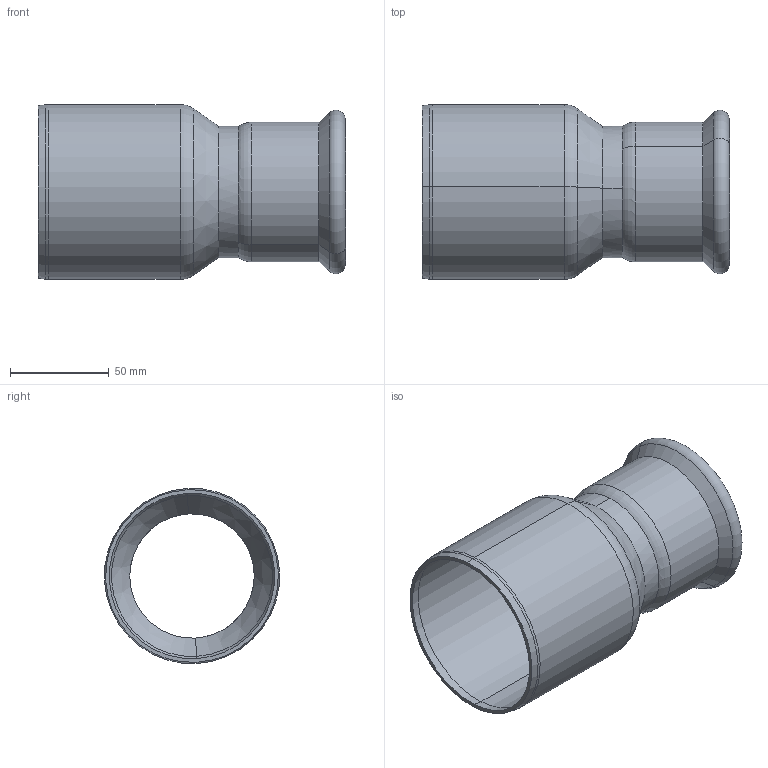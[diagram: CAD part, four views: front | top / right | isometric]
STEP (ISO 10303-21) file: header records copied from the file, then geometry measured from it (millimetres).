
FILE_DESCRIPTION(('CoCreate Modeling STEP Export'),'2;1');
FILE_NAME('C1407 89x67.stp','2014-10-23T15:49:07',(''),(''),'CoCreate Modeling STEP processor for AP214 (Solid Model)','CoCreate Modeling 17.00A 17-Jun-2010 (C) Parametric Technology GmbH','');
FILE_SCHEMA(('AUTOMOTIVE_DESIGN { 1 0 10303 214 1 1 1 1 }'));
Length unit declared in the file: millimetre
Products named in the file (2): Reducer_89x67mm
Assembly tree (1 placements, depth 2):
  Reducer_89x67mm
    Reducer_89x67mm
Bounding box: 156.08 x 88.75 x 88.75 mm (x, y, z)
Volume: 82801.7 mm3; surface area: 81381.8 mm2
Topology: 1 solids, 1 shells, 49 faces, 113 edges, 67 vertices
Faces by surface type: cone 18, cylinder 16, torus 12, plane 3
Entity records: 1135 total; most frequent: ORIENTED_EDGE 226, CARTESIAN_POINT 167, DIRECTION 166, EDGE_CURVE 113, VERTEX_POINT 67, AXIS2_PLACEMENT_3D 66, EDGE_LOOP 52, FACE_OUTER_BOUND 49
